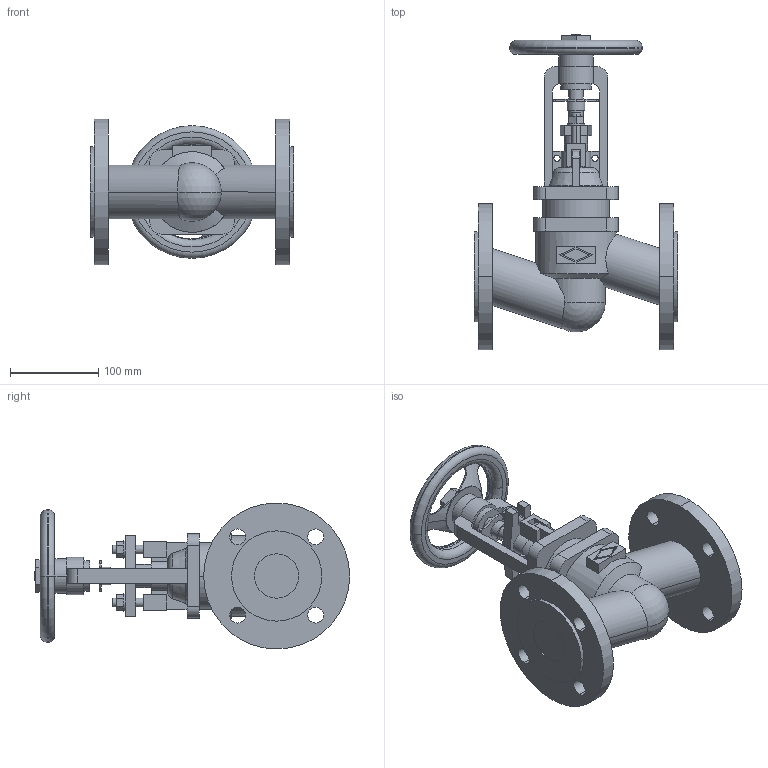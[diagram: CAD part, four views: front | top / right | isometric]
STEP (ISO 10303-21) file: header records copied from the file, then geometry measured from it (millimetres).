
FILE_DESCRIPTION(('OneSpaceDesigner STEP Export'),'2;1');
FILE_NAME('c000003729.stp','2009-06-15T12:37:51',(''),(''),'OneSpace Designer STEP processor for AP214 (Solid Model)','OneSpace Modeling 15.50B 03-Nov-2007 (C) CoCreate Software GmbH','');
FILE_SCHEMA(('AUTOMOTIVE_DESIGN { 1 0 10303 214 1 1 1 1 }'));
Length unit declared in the file: millimetre
Products named in the file (1): 1
Bounding box: 230 x 356.4 x 165 mm (x, y, z)
Volume: 2341252.3 mm3; surface area: 273146.9 mm2
Topology: 1 solids, 1 shells, 285 faces, 763 edges, 502 vertices
Faces by surface type: plane 140, cylinder 113, torus 18, cone 12, sphere 2
Entity records: 11339 total; most frequent: CARTESIAN_POINT 2291, ORIENTED_EDGE 1514, DIRECTION 1261, EDGE_CURVE 757, VERTEX_POINT 498, AXIS2_PLACEMENT_3D 429, VECTOR 403, LINE 403
